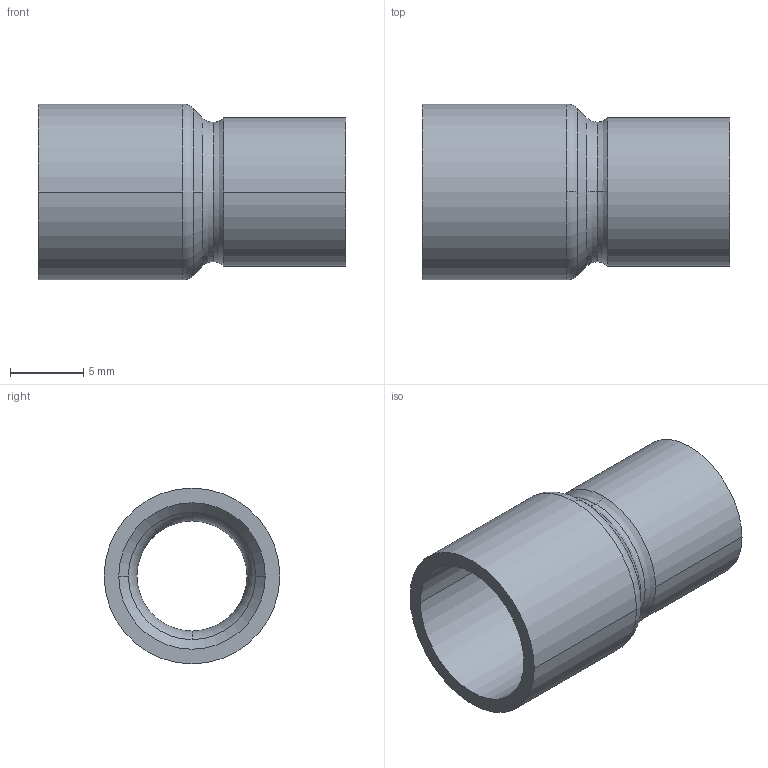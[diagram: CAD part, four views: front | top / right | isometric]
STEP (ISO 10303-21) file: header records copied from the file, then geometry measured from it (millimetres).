
FILE_DESCRIPTION((''),'2;1');
FILE_NAME('G:\Technics\CAD\Bauteile\Serie 15243\15243128.stp','2005-10-21T12:49:29',('boden'),(''),'Autodesk Inventor 8','Autodesk Inventor 8','');
FILE_SCHEMA(('AUTOMOTIVE_DESIGN { 1 0 10303 214 1 1 1 1 }'));
Length unit declared in the file: millimetre
Products named in the file (1): 15243128
Bounding box: 21 x 12 x 12 mm (x, y, z)
Volume: 676.5 mm3; surface area: 1416.4 mm2
Topology: 1 solids, 1 shells, 24 faces, 60 edges, 38 vertices
Faces by surface type: cylinder 8, torus 6, bspline 4, cone 4, plane 2
Entity records: 931 total; most frequent: CARTESIAN_POINT 299, DIRECTION 150, ORIENTED_EDGE 120, AXIS2_PLACEMENT_3D 69, EDGE_CURVE 60, CIRCLE 48, VERTEX_POINT 38, EDGE_LOOP 26
